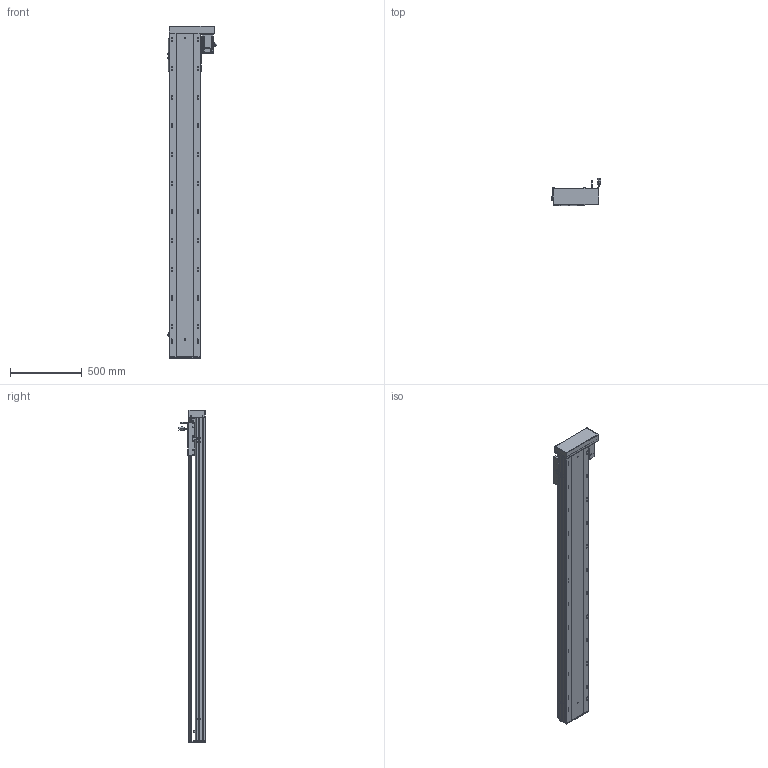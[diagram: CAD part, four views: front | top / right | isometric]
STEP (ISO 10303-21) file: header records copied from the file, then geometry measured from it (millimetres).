
FILE_DESCRIPTION (( 'STEP AP203' ), '1' );
FILE_NAME ('RY220-L2525-800-RK-邧嶺.SLDASM_1900.step', '2022-08-06T08:53:45', ( '' ), ( '' ), 'SwSTEP 2.0', 'SolidWorks 2016', '' );
FILE_SCHEMA (( 'CONFIG_CONTROL_DESIGN' ));
Length unit declared in the file: millimetre
Products named in the file (12): RY220蛌殏菁釱-800-邧嶺_1900; RY220酘衵殏萇儂欶; 怢湛750W_ECMA-CX0807ES; RY220-800-蛌殏奻裔啣_1900; 滅袉蝶18-10; 滅袉蝶18-15; RY220綴裔啣; RY220左右折电机安装板; RY220-俋离672覜茼んえ; RY220-L2525-800-RK-邧嶺.SLDASM_1900; RY220半封闭25-32螺母铝滑块; 覜茼ん672
Assembly tree (15 placements, depth 2):
  RY220-L2525-800-RK-邧嶺.SLDASM_1900
    RY220蛌殏菁釱-800-邧嶺_1900
    RY220-800-蛌殏奻裔啣_1900
    怢湛750W_ECMA-CX0807ES
    滅袉蝶18-10  x2
    RY220-俋离672覜茼んえ
    覜茼ん672  x3
    RY220綴裔啣
    RY220半封闭25-32螺母铝滑块
    滅袉蝶18-15  x2
    RY220左右折电机安装板
    RY220酘衵殏萇儂欶
Bounding box: 347.44 x 187.27 x 2314 mm (x, y, z)
Volume: 17559666.7 mm3; surface area: 5340310.1 mm2
Topology: 16 solids, 16 shells, 2365 faces, 6536 edges, 4099 vertices
Faces by surface type: cylinder 1105, plane 904, cone 286, bspline 44, sphere 16, torus 10
Entity records: 78195 total; most frequent: CARTESIAN_POINT 22465, ORIENTED_EDGE 11528, DIRECTION 10996, EDGE_CURVE 5764, AXIS2_PLACEMENT_3D 3915, VERTEX_POINT 3755, VECTOR 3166, LINE 3166
